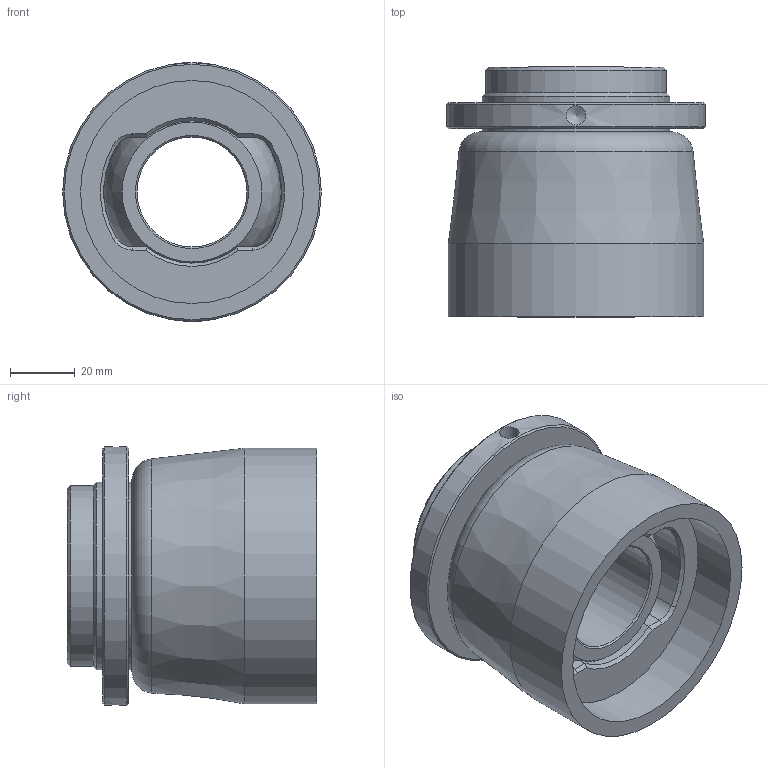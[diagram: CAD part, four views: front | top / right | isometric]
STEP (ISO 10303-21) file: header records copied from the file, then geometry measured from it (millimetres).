
FILE_DESCRIPTION(('STEP AP214'),'1');
FILE_NAME('Z:/J/Jp3/Palier/Palier-type1/3D TopSolid 2011/Serie 10.xx.xx/10.14.xx/10.14.03.step','2012-02-23T13:23:53',(' '),(' '),'Spatial InterOp 3D',' ',' ');
FILE_SCHEMA(('automotive_design'));
Length unit declared in the file: metre
Products named in the file (4): boitier03; ecrou ; rotule 03; hunsing 
Bounding box: 80 x 77.23 x 80 mm (x, y, z)
Volume: 191358.9 mm3; surface area: 72519.7 mm2
Topology: 4 solids, 4 shells, 67 faces, 143 edges, 86 vertices
Faces by surface type: cylinder 22, plane 20, cone 20, torus 3, sphere 2
Full cylindrical faces by diameter (mm): 6 x2, 34 x1, 44 x1, 50 x1, 56 x1, 58 x4, 68.997 x2, 78.997 x1, 80 x1
Entity records: 2397 total; most frequent: CARTESIAN_POINT 479, DIRECTION 300, ORIENTED_EDGE 208, AXIS2_PLACEMENT_3D 136, EDGE_LOOP 109, EDGE_CURVE 104, FACE_OUTER_BOUND 86, VERTEX_POINT 81
